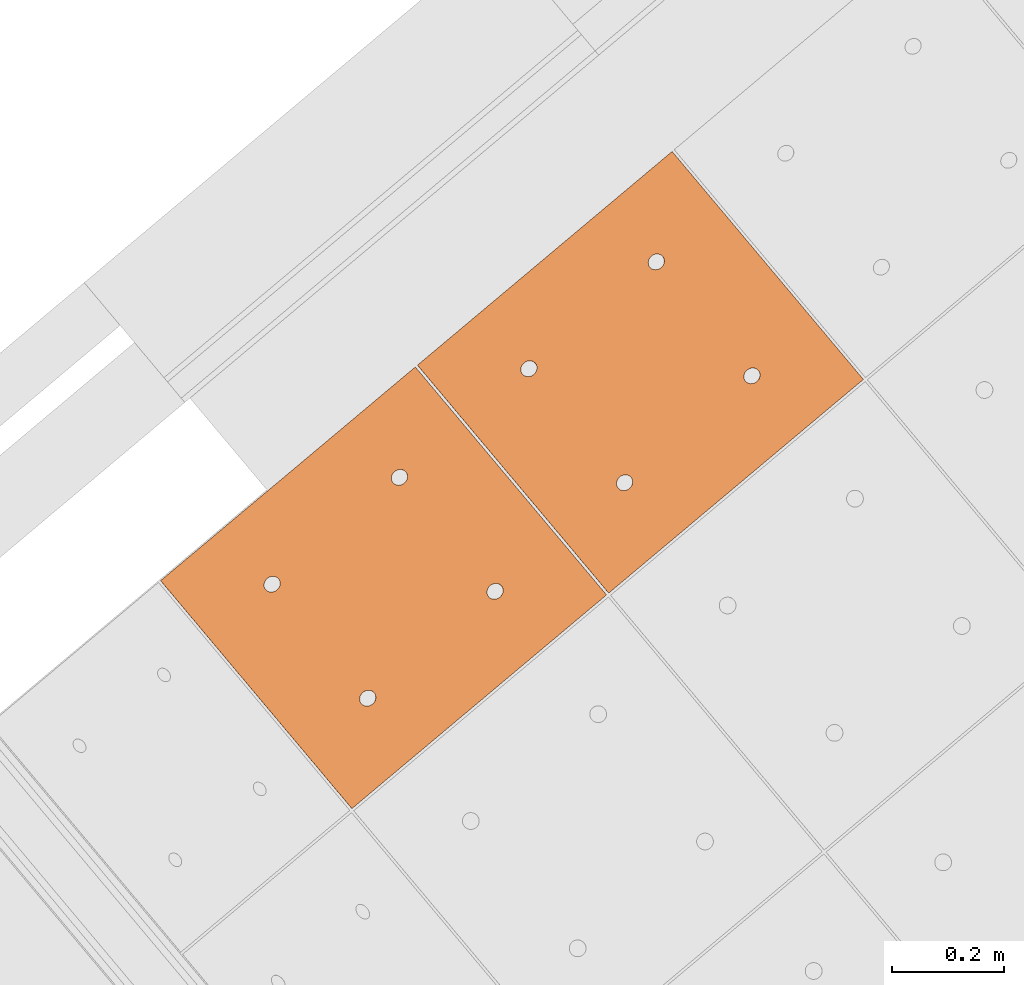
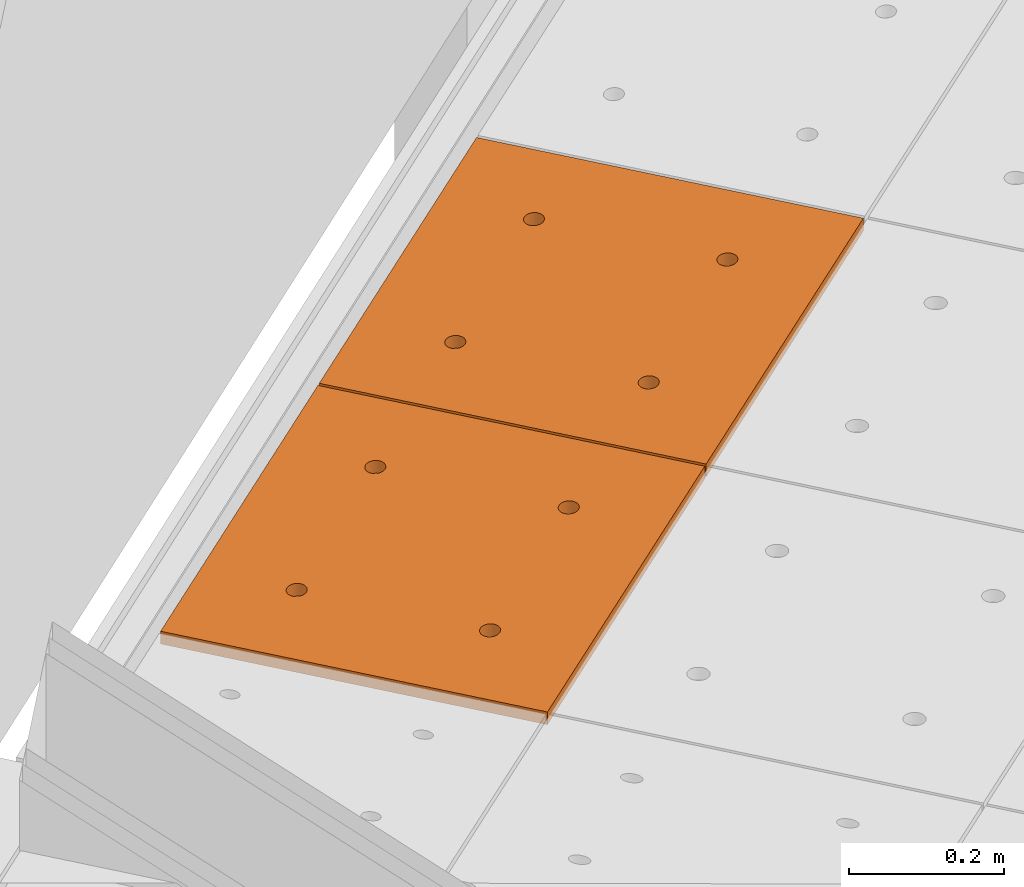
# One storey, part 161 of 338: 2 proxies, 1 element without a shape of its own.
"""IFC2X3 building model written with IfcOpenShell, lengths in millimetres."""

from ifc_helpers import new_model, entity, si_unit, converted_unit, derived_unit, money_unit, direction, frame, origin_with_axes, place, context, subcontext, project, spatial, faceted_brep, source, transform, mapped, material, type_object, type_shapes, element, aggregate, save


model = new_model("IFC2X3")

# Units and contexts
model_context = context("Model", 3, precision=0.01, world=origin_with_axes(), true_north=direction((0.0, 1.0)))
plan_context = context("Plan", 3, precision=0.01, world=origin_with_axes(), true_north=direction((0.0, 1.0)))
body_context = subcontext(model_context, "Body", "Model", "MODEL_VIEW")
ifc_project = project(units=[si_unit("LENGTHUNIT", "METRE", prefix="MILLI"), si_unit("AREAUNIT", "SQUARE_METRE"), si_unit("VOLUMEUNIT", "CUBIC_METRE"), converted_unit("PLANEANGLEUNIT", "DEGREE", entity("IfcPlaneAngleMeasure", 0.0174532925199), si_unit("PLANEANGLEUNIT", "RADIAN"), dimensions=[0, 0, 0, 0, 0, 0, 0]), money_unit("EUR"), converted_unit("TIMEUNIT", "Year", entity("IfcTimeMeasure", 31556926.0), si_unit("TIMEUNIT", "SECOND"), dimensions=[0, 0, 1, 0, 0, 0, 0]), si_unit("MASSUNIT", "GRAM", prefix="KILO"), si_unit("THERMODYNAMICTEMPERATUREUNIT", "DEGREE_CELSIUS"), si_unit("LUMINOUSINTENSITYUNIT", "LUMEN"), si_unit("ENERGYUNIT", "JOULE", prefix="MEGA"), derived_unit("THERMALCONDUCTANCEUNIT", [(si_unit("POWERUNIT", "WATT"), 1), (si_unit("LENGTHUNIT", "METRE"), -1), (si_unit("THERMODYNAMICTEMPERATUREUNIT", "KELVIN"), -1)]), derived_unit("SPECIFICHEATCAPACITYUNIT", [(si_unit("ENERGYUNIT", "JOULE"), 1), (si_unit("MASSUNIT", "GRAM", prefix="KILO"), -1), (si_unit("THERMODYNAMICTEMPERATUREUNIT", "KELVIN"), -1)]), derived_unit("MASSDENSITYUNIT", [(si_unit("MASSUNIT", "GRAM", prefix="KILO"), 1), (si_unit("VOLUMEUNIT", "CUBIC_METRE"), -1)])], contexts=[model_context, plan_context])

# Site, building, storey
site_placement = place(None, origin_with_axes())
site = spatial("IfcSite", under=ifc_project, at=site_placement, Name="Fortuinstraat Woensdrecht", CompositionType="ELEMENT")
building_placement = place(site_placement, origin_with_axes())
building = spatial("IfcBuilding", under=site, at=building_placement, Name="IKC Fortuna", CompositionType="ELEMENT")
storey_placement = place(building_placement, origin_with_axes())
storey = spatial("IfcBuildingStorey", under=building, at=storey_placement, Name="00 begane grond", CompositionType="ELEMENT", Elevation=0.0)

# Covering, proxies
covering_type = type_object("IfcCoveringType", Name="Curtain Wall Type", PredefinedType="CEILING")
covering_placement = place(storey_placement, frame((15863.124366, 4456.31398675, 4619.99995334), z_axis=(0.0, 0.0, 1.0), x_axis=(1.0, 0.0, 0.0)))
covering = element("IfcCovering", 1, at=covering_placement, inside=storey, type_object=covering_type, Name="45_Plafondafwerking_P01", PredefinedType="CEILING")
ifc_material = material(Name="Gipsplaat")
building_element_proxy_type = type_object("IfcBuildingElementProxyType", Name="Main Panel 600 x 538 x 20", PredefinedType="NOTDEFINED")
shared_shape = source(origin_with_axes(), body_context, "Body", "Brep", [
    faceted_brep([(2.49999036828, 64.9082503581, -10.0), (300.000001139, 64.9082503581, -10.0), (300.000001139, 64.9082503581, 10.0), (2.49999036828, 64.9082503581, 10.0), (2.49999036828, 331.20412675, -10.0), (2.49999036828, 597.500003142, -10.0), (300.000001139, 597.500003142, -10.0), (597.50001191, 597.500003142, -10.0), (597.50001191, 331.20412675, -10.0), (597.50001191, 64.9082503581, -10.0), (166.249996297, 465.526747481, -10.0), (165.79422887, 467.840420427, -10.0), (164.896542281, 470.048101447, -10.0), (163.58421228, 472.082711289, -10.0), (161.897113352, 473.882429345, -10.0), (159.886507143, 475.392572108, -10.0), (157.613484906, 476.567254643, -10.0), (155.147111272, 477.370784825, -10.0), (152.562325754, 477.77874779, -10.0), (149.937665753, 477.77874779, -10.0), (147.352880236, 477.370784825, -10.0), (144.8865066, 476.567254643, -10.0), (142.613484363, 475.392572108, -10.0), (140.602878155, 473.882429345, -10.0), (138.915779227, 472.082711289, -10.0), (137.603449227, 470.048101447, -10.0), (136.705762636, 467.840420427, -10.0), (136.249995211, 465.526747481, -10.0), (136.249995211, 464.352064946, -10.0), (136.249995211, 463.177382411, -10.0), (136.705762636, 460.863709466, -10.0), (137.603449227, 458.656028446, -10.0), (138.915779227, 456.621418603, -10.0), (140.602878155, 454.821700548, -10.0), (142.613484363, 453.311557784, -10.0), (144.8865066, 452.13687525, -10.0), (147.352880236, 451.333345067, -10.0), (149.937665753, 450.925382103, -10.0), (152.562325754, 450.925382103, -10.0), (155.147111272, 451.333345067, -10.0), (157.613484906, 452.13687525, -10.0), (159.886507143, 453.311557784, -10.0), (161.897113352, 454.821700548, -10.0), (163.58421228, 456.621418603, -10.0), (164.896542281, 458.656028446, -10.0), (165.79422887, 460.863709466, -10.0), (166.249996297, 463.177382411, -10.0), (463.750007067, 465.526747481, -10.0), (463.294239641, 467.840420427, -10.0), (462.396553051, 470.048101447, -10.0), (461.084223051, 472.082711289, -10.0), (459.397124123, 473.882429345, -10.0), (457.386517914, 475.392572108, -10.0), (455.113495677, 476.567254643, -10.0), (452.647122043, 477.370784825, -10.0), (450.062336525, 477.77874779, -10.0), (447.437676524, 477.77874779, -10.0), (444.852891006, 477.370784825, -10.0), (442.386517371, 476.567254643, -10.0), (440.113495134, 475.392572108, -10.0), (438.102888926, 473.882429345, -10.0), (436.415789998, 472.082711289, -10.0), (435.103459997, 470.048101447, -10.0), (434.205773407, 467.840420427, -10.0), (433.750005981, 465.526747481, -10.0), (433.750005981, 464.352064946, -10.0), (433.750005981, 463.177382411, -10.0), (434.205773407, 460.863709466, -10.0), (435.103459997, 458.656028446, -10.0), (436.415789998, 456.621418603, -10.0), (438.102888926, 454.821700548, -10.0), (440.113495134, 453.311557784, -10.0), (442.386517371, 452.13687525, -10.0), (444.852891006, 451.333345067, -10.0), (447.437676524, 450.925382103, -10.0), (450.062336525, 450.925382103, -10.0), (452.647122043, 451.333345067, -10.0), (455.113495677, 452.13687525, -10.0), (457.386517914, 453.311557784, -10.0), (459.397124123, 454.821700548, -10.0), (461.084223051, 456.621418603, -10.0), (462.396553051, 458.656028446, -10.0), (463.294239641, 460.863709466, -10.0), (463.750007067, 463.177382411, -10.0), (463.750007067, 199.230871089, -10.0), (463.294239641, 201.544544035, -10.0), (462.396553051, 203.752225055, -10.0), (461.084223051, 205.786834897, -10.0), (459.397124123, 207.586552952, -10.0), (457.386517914, 209.096695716, -10.0), (455.113495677, 210.271378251, -10.0), (452.647122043, 211.074908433, -10.0), (450.062336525, 211.482871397, -10.0), (447.437676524, 211.482871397, -10.0), (444.852891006, 211.074908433, -10.0), (442.386517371, 210.271378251, -10.0), (440.113495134, 209.096695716, -10.0), (438.102888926, 207.586552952, -10.0), (436.415789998, 205.786834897, -10.0), (435.103459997, 203.752225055, -10.0), (434.205773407, 201.544544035, -10.0), (433.750005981, 199.230871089, -10.0), (433.750005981, 198.056188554, -10.0), (433.750005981, 196.881506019, -10.0), (434.205773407, 194.567833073, -10.0), (435.103459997, 192.360152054, -10.0), (436.415789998, 190.325542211, -10.0), (438.102888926, 188.525824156, -10.0), (440.113495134, 187.015681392, -10.0), (442.386517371, 185.840998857, -10.0), (444.852891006, 185.037468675, -10.0), (447.437676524, 184.629505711, -10.0), (450.062336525, 184.629505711, -10.0), (452.647122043, 185.037468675, -10.0), (455.113495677, 185.840998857, -10.0), (457.386517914, 187.015681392, -10.0), (459.397124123, 188.525824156, -10.0), (461.084223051, 190.325542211, -10.0), (462.396553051, 192.360152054, -10.0), (463.294239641, 194.567833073, -10.0), (463.750007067, 196.881506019, -10.0), (166.249996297, 199.230871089, -10.0), (165.79422887, 201.544544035, -10.0), (164.896542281, 203.752225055, -10.0), (163.58421228, 205.786834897, -10.0), (161.897113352, 207.586552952, -10.0), (159.886507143, 209.096695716, -10.0), (157.613484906, 210.271378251, -10.0), (155.147111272, 211.074908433, -10.0), (152.562325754, 211.482871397, -10.0), (149.937665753, 211.482871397, -10.0), (147.352880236, 211.074908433, -10.0), (144.8865066, 210.271378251, -10.0), (142.613484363, 209.096695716, -10.0), (140.602878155, 207.586552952, -10.0), (138.915779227, 205.786834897, -10.0), (137.603449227, 203.752225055, -10.0), (136.705762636, 201.544544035, -10.0), (136.249995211, 199.230871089, -10.0), (136.249995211, 198.056188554, -10.0), (136.249995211, 196.881506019, -10.0), (136.705762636, 194.567833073, -10.0), (137.603449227, 192.360152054, -10.0), (138.915779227, 190.325542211, -10.0), (140.602878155, 188.525824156, -10.0), (142.613484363, 187.015681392, -10.0), (144.8865066, 185.840998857, -10.0), (147.352880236, 185.037468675, -10.0), (149.937665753, 184.629505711, -10.0), (152.562325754, 184.629505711, -10.0), (155.147111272, 185.037468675, -10.0), (157.613484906, 185.840998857, -10.0), (159.886507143, 187.015681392, -10.0), (161.897113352, 188.525824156, -10.0), (163.58421228, 190.325542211, -10.0), (164.896542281, 192.360152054, -10.0), (165.79422887, 194.567833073, -10.0), (166.249996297, 196.881506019, -10.0), (597.50001191, 64.9082503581, 10.0), (597.50001191, 331.20412675, 10.0), (597.50001191, 597.500003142, 10.0), (300.000001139, 597.500003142, 10.0), (2.49999036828, 597.500003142, 10.0), (2.49999036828, 331.20412675, 10.0), (166.249996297, 465.526747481, 10.0), (166.249996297, 463.177382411, 10.0), (165.79422887, 460.863709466, 10.0), (164.896542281, 458.656028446, 10.0), (163.58421228, 456.621418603, 10.0), (161.897113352, 454.821700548, 10.0), (159.886507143, 453.311557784, 10.0), (157.613484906, 452.13687525, 10.0), (155.147111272, 451.333345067, 10.0), (152.562325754, 450.925382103, 10.0), (149.937665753, 450.925382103, 10.0), (147.352880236, 451.333345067, 10.0), (144.8865066, 452.13687525, 10.0), (142.613484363, 453.311557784, 10.0), (140.602878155, 454.821700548, 10.0), (138.915779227, 456.621418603, 10.0), (137.603449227, 458.656028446, 10.0), (136.705762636, 460.863709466, 10.0), (136.249995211, 463.177382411, 10.0), (136.249995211, 464.352064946, 10.0), (136.249995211, 465.526747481, 10.0), (136.705762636, 467.840420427, 10.0), (137.603449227, 470.048101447, 10.0), (138.915779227, 472.082711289, 10.0), (140.602878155, 473.882429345, 10.0), (142.613484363, 475.392572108, 10.0), (144.8865066, 476.567254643, 10.0), (147.352880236, 477.370784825, 10.0), (149.937665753, 477.77874779, 10.0), (152.562325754, 477.77874779, 10.0), (155.147111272, 477.370784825, 10.0), (157.613484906, 476.567254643, 10.0), (159.886507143, 475.392572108, 10.0), (161.897113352, 473.882429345, 10.0), (163.58421228, 472.082711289, 10.0), (164.896542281, 470.048101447, 10.0), (165.79422887, 467.840420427, 10.0), (463.750007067, 465.526747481, 10.0), (463.750007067, 463.177382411, 10.0), (463.294239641, 460.863709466, 10.0), (462.396553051, 458.656028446, 10.0), (461.084223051, 456.621418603, 10.0), (459.397124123, 454.821700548, 10.0), (457.386517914, 453.311557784, 10.0), (455.113495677, 452.13687525, 10.0), (452.647122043, 451.333345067, 10.0), (450.062336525, 450.925382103, 10.0), (447.437676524, 450.925382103, 10.0), (444.852891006, 451.333345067, 10.0), (442.386517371, 452.13687525, 10.0), (440.113495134, 453.311557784, 10.0), (438.102888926, 454.821700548, 10.0), (436.415789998, 456.621418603, 10.0), (435.103459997, 458.656028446, 10.0), (434.205773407, 460.863709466, 10.0), (433.750005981, 463.177382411, 10.0), (433.750005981, 464.352064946, 10.0), (433.750005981, 465.526747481, 10.0), (434.205773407, 467.840420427, 10.0), (435.103459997, 470.048101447, 10.0), (436.415789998, 472.082711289, 10.0), (438.102888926, 473.882429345, 10.0), (440.113495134, 475.392572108, 10.0), (442.386517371, 476.567254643, 10.0), (444.852891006, 477.370784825, 10.0), (447.437676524, 477.77874779, 10.0), (450.062336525, 477.77874779, 10.0), (452.647122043, 477.370784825, 10.0), (455.113495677, 476.567254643, 10.0), (457.386517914, 475.392572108, 10.0), (459.397124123, 473.882429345, 10.0), (461.084223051, 472.082711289, 10.0), (462.396553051, 470.048101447, 10.0), (463.294239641, 467.840420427, 10.0), (463.750007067, 199.230871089, 10.0), (463.750007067, 196.881506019, 10.0), (463.294239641, 194.567833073, 10.0), (462.396553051, 192.360152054, 10.0), (461.084223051, 190.325542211, 10.0), (459.397124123, 188.525824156, 10.0), (457.386517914, 187.015681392, 10.0), (455.113495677, 185.840998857, 10.0), (452.647122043, 185.037468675, 10.0), (450.062336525, 184.629505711, 10.0), (447.437676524, 184.629505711, 10.0), (444.852891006, 185.037468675, 10.0), (442.386517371, 185.840998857, 10.0), (440.113495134, 187.015681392, 10.0), (438.102888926, 188.525824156, 10.0), (436.415789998, 190.325542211, 10.0), (435.103459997, 192.360152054, 10.0), (434.205773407, 194.567833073, 10.0), (433.750005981, 196.881506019, 10.0), (433.750005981, 198.056188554, 10.0), (433.750005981, 199.230871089, 10.0), (434.205773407, 201.544544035, 10.0), (435.103459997, 203.752225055, 10.0), (436.415789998, 205.786834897, 10.0), (438.102888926, 207.586552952, 10.0), (440.113495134, 209.096695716, 10.0), (442.386517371, 210.271378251, 10.0), (444.852891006, 211.074908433, 10.0), (447.437676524, 211.482871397, 10.0), (450.062336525, 211.482871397, 10.0), (452.647122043, 211.074908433, 10.0), (455.113495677, 210.271378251, 10.0), (457.386517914, 209.096695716, 10.0), (459.397124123, 207.586552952, 10.0), (461.084223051, 205.786834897, 10.0), (462.396553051, 203.752225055, 10.0), (463.294239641, 201.544544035, 10.0), (166.249996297, 199.230871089, 10.0), (166.249996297, 196.881506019, 10.0), (165.79422887, 194.567833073, 10.0), (164.896542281, 192.360152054, 10.0), (163.58421228, 190.325542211, 10.0), (161.897113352, 188.525824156, 10.0), (159.886507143, 187.015681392, 10.0), (157.613484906, 185.840998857, 10.0), (155.147111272, 185.037468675, 10.0), (152.562325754, 184.629505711, 10.0), (149.937665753, 184.629505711, 10.0), (147.352880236, 185.037468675, 10.0), (144.8865066, 185.840998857, 10.0), (142.613484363, 187.015681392, 10.0), (140.602878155, 188.525824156, 10.0), (138.915779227, 190.325542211, 10.0), (137.603449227, 192.360152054, 10.0), (136.705762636, 194.567833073, 10.0), (136.249995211, 196.881506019, 10.0), (136.249995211, 198.056188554, 10.0), (136.249995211, 199.230871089, 10.0), (136.705762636, 201.544544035, 10.0), (137.603449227, 203.752225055, 10.0), (138.915779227, 205.786834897, 10.0), (140.602878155, 207.586552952, 10.0), (142.613484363, 209.096695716, 10.0), (144.8865066, 210.271378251, 10.0), (147.352880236, 211.074908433, 10.0), (149.937665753, 211.482871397, 10.0), (152.562325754, 211.482871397, 10.0), (155.147111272, 211.074908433, 10.0), (157.613484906, 210.271378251, 10.0), (159.886507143, 209.096695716, 10.0), (161.897113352, 207.586552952, 10.0), (163.58421228, 205.786834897, 10.0), (164.896542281, 203.752225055, 10.0), (165.79422887, 201.544544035, 10.0)], [[[0, 1, 2, 3]], [[0, 4, 5, 6, 7, 8, 9, 1], [10, 11, 12, 13, 14, 15, 16, 17, 18, 19, 20, 21, 22, 23, 24, 25, 26, 27, 28, 29, 30, 31, 32, 33, 34, 35, 36, 37, 38, 39, 40, 41, 42, 43, 44, 45, 46], [47, 48, 49, 50, 51, 52, 53, 54, 55, 56, 57, 58, 59, 60, 61, 62, 63, 64, 65, 66, 67, 68, 69, 70, 71, 72, 73, 74, 75, 76, 77, 78, 79, 80, 81, 82, 83], [84, 85, 86, 87, 88, 89, 90, 91, 92, 93, 94, 95, 96, 97, 98, 99, 100, 101, 102, 103, 104, 105, 106, 107, 108, 109, 110, 111, 112, 113, 114, 115, 116, 117, 118, 119, 120], [121, 122, 123, 124, 125, 126, 127, 128, 129, 130, 131, 132, 133, 134, 135, 136, 137, 138, 139, 140, 141, 142, 143, 144, 145, 146, 147, 148, 149, 150, 151, 152, 153, 154, 155, 156, 157]], [[1, 9, 158, 2]], [[3, 2, 158, 159, 160, 161, 162, 163], [164, 165, 166, 167, 168, 169, 170, 171, 172, 173, 174, 175, 176, 177, 178, 179, 180, 181, 182, 183, 184, 185, 186, 187, 188, 189, 190, 191, 192, 193, 194, 195, 196, 197, 198, 199, 200], [201, 202, 203, 204, 205, 206, 207, 208, 209, 210, 211, 212, 213, 214, 215, 216, 217, 218, 219, 220, 221, 222, 223, 224, 225, 226, 227, 228, 229, 230, 231, 232, 233, 234, 235, 236, 237], [238, 239, 240, 241, 242, 243, 244, 245, 246, 247, 248, 249, 250, 251, 252, 253, 254, 255, 256, 257, 258, 259, 260, 261, 262, 263, 264, 265, 266, 267, 268, 269, 270, 271, 272, 273, 274], [275, 276, 277, 278, 279, 280, 281, 282, 283, 284, 285, 286, 287, 288, 289, 290, 291, 292, 293, 294, 295, 296, 297, 298, 299, 300, 301, 302, 303, 304, 305, 306, 307, 308, 309, 310, 311]], [[4, 0, 3, 163]], [[5, 4, 163, 162]], [[6, 5, 162, 161]], [[7, 6, 161, 160]], [[8, 7, 160, 159]], [[9, 8, 159, 158]], [[11, 10, 164, 200]], [[12, 11, 200, 199]], [[13, 12, 199, 198]], [[14, 13, 198, 197]], [[15, 14, 197, 196]], [[16, 15, 196, 195]], [[17, 16, 195, 194]], [[18, 17, 194, 193]], [[19, 18, 193, 192]], [[20, 19, 192, 191]], [[21, 20, 191, 190]], [[22, 21, 190, 189]], [[23, 22, 189, 188]], [[24, 23, 188, 187]], [[25, 24, 187, 186]], [[26, 25, 186, 185]], [[27, 26, 185, 184]], [[28, 27, 184, 183]], [[29, 28, 183, 182]], [[30, 29, 182, 181]], [[31, 30, 181, 180]], [[32, 31, 180, 179]], [[33, 32, 179, 178]], [[34, 33, 178, 177]], [[35, 34, 177, 176]], [[36, 35, 176, 175]], [[37, 36, 175, 174]], [[38, 37, 174, 173]], [[39, 38, 173, 172]], [[40, 39, 172, 171]], [[41, 40, 171, 170]], [[42, 41, 170, 169]], [[43, 42, 169, 168]], [[44, 43, 168, 167]], [[45, 44, 167, 166]], [[46, 45, 166, 165]], [[10, 46, 165, 164]], [[48, 47, 201, 237]], [[49, 48, 237, 236]], [[50, 49, 236, 235]], [[51, 50, 235, 234]], [[52, 51, 234, 233]], [[53, 52, 233, 232]], [[54, 53, 232, 231]], [[55, 54, 231, 230]], [[56, 55, 230, 229]], [[57, 56, 229, 228]], [[58, 57, 228, 227]], [[59, 58, 227, 226]], [[60, 59, 226, 225]], [[61, 60, 225, 224]], [[62, 61, 224, 223]], [[63, 62, 223, 222]], [[64, 63, 222, 221]], [[65, 64, 221, 220]], [[66, 65, 220, 219]], [[67, 66, 219, 218]], [[68, 67, 218, 217]], [[69, 68, 217, 216]], [[70, 69, 216, 215]], [[71, 70, 215, 214]], [[72, 71, 214, 213]], [[73, 72, 213, 212]], [[74, 73, 212, 211]], [[75, 74, 211, 210]], [[76, 75, 210, 209]], [[77, 76, 209, 208]], [[78, 77, 208, 207]], [[79, 78, 207, 206]], [[80, 79, 206, 205]], [[81, 80, 205, 204]], [[82, 81, 204, 203]], [[83, 82, 203, 202]], [[47, 83, 202, 201]], [[85, 84, 238, 274]], [[86, 85, 274, 273]], [[87, 86, 273, 272]], [[88, 87, 272, 271]], [[89, 88, 271, 270]], [[90, 89, 270, 269]], [[91, 90, 269, 268]], [[92, 91, 268, 267]], [[93, 92, 267, 266]], [[94, 93, 266, 265]], [[95, 94, 265, 264]], [[96, 95, 264, 263]], [[97, 96, 263, 262]], [[98, 97, 262, 261]], [[99, 98, 261, 260]], [[100, 99, 260, 259]], [[101, 100, 259, 258]], [[102, 101, 258, 257]], [[103, 102, 257, 256]], [[104, 103, 256, 255]], [[105, 104, 255, 254]], [[106, 105, 254, 253]], [[107, 106, 253, 252]], [[108, 107, 252, 251]], [[109, 108, 251, 250]], [[110, 109, 250, 249]], [[111, 110, 249, 248]], [[112, 111, 248, 247]], [[113, 112, 247, 246]], [[114, 113, 246, 245]], [[115, 114, 245, 244]], [[116, 115, 244, 243]], [[117, 116, 243, 242]], [[118, 117, 242, 241]], [[119, 118, 241, 240]], [[120, 119, 240, 239]], [[84, 120, 239, 238]], [[122, 121, 275, 311]], [[123, 122, 311, 310]], [[124, 123, 310, 309]], [[125, 124, 309, 308]], [[126, 125, 308, 307]], [[127, 126, 307, 306]], [[128, 127, 306, 305]], [[129, 128, 305, 304]], [[130, 129, 304, 303]], [[131, 130, 303, 302]], [[132, 131, 302, 301]], [[133, 132, 301, 300]], [[134, 133, 300, 299]], [[135, 134, 299, 298]], [[136, 135, 298, 297]], [[137, 136, 297, 296]], [[138, 137, 296, 295]], [[139, 138, 295, 294]], [[140, 139, 294, 293]], [[141, 140, 293, 292]], [[142, 141, 292, 291]], [[143, 142, 291, 290]], [[144, 143, 290, 289]], [[145, 144, 289, 288]], [[146, 145, 288, 287]], [[147, 146, 287, 286]], [[148, 147, 286, 285]], [[149, 148, 285, 284]], [[150, 149, 284, 283]], [[151, 150, 283, 282]], [[152, 151, 282, 281]], [[153, 152, 281, 280]], [[154, 153, 280, 279]], [[155, 154, 279, 278]], [[156, 155, 278, 277]], [[157, 156, 277, 276]], [[121, 157, 276, 275]]]),
])
type_shapes(building_element_proxy_type, [shared_shape])
proxy_1_placement = place(covering_placement, frame((-8735.21478646, 894.467471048, 32.9747801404), z_axis=(0.0, 0.0, 1.0), x_axis=(0.642787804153, -0.766044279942, 0.0)))
proxy_1 = element("IfcBuildingElementProxy", 2, at=proxy_1_placement, type_object=building_element_proxy_type, material=ifc_material, Name="__600x941 Rockfon Krios", context=body_context, shape_type="MappedRepresentation", body=[
    mapped(shared_shape, transform((-331.204195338, 299.995617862, -1.62150043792), x_axis=(0.0, -0.999985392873, 0.00540500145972), y_axis=(1.0, 0.0, 0.0), z_axis=(0.0, 0.00540500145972, 0.999985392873))),
])
proxy_2_placement = place(covering_placement, frame((-9194.83465533, 508.800439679, 36.2177810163), z_axis=(0.0, 0.0, 1.0), x_axis=(0.642787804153, -0.766044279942, 0.0)))
proxy_2 = element("IfcBuildingElementProxy", 3, at=proxy_2_placement, type_object=building_element_proxy_type, material=ifc_material, Name="__600x942 Rockfon Krios", context=body_context, shape_type="MappedRepresentation", body=[
    mapped(shared_shape, transform((-331.204172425, 299.995617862, -1.62150043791), x_axis=(0.0, -0.999985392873, 0.00540500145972), y_axis=(1.0, 0.0, 0.0), z_axis=(0.0, 0.00540500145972, 0.999985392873))),
])
aggregate(covering, [proxy_1, proxy_2])

save(model, "model.ifc")
